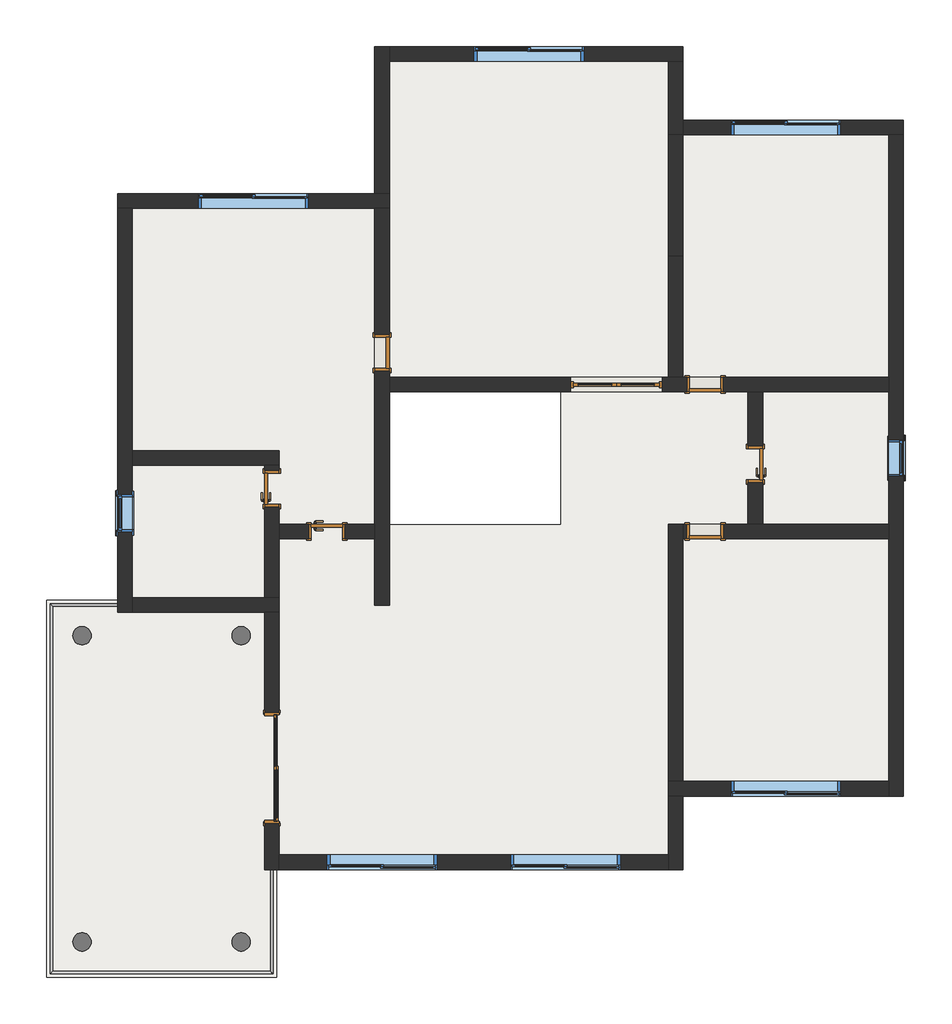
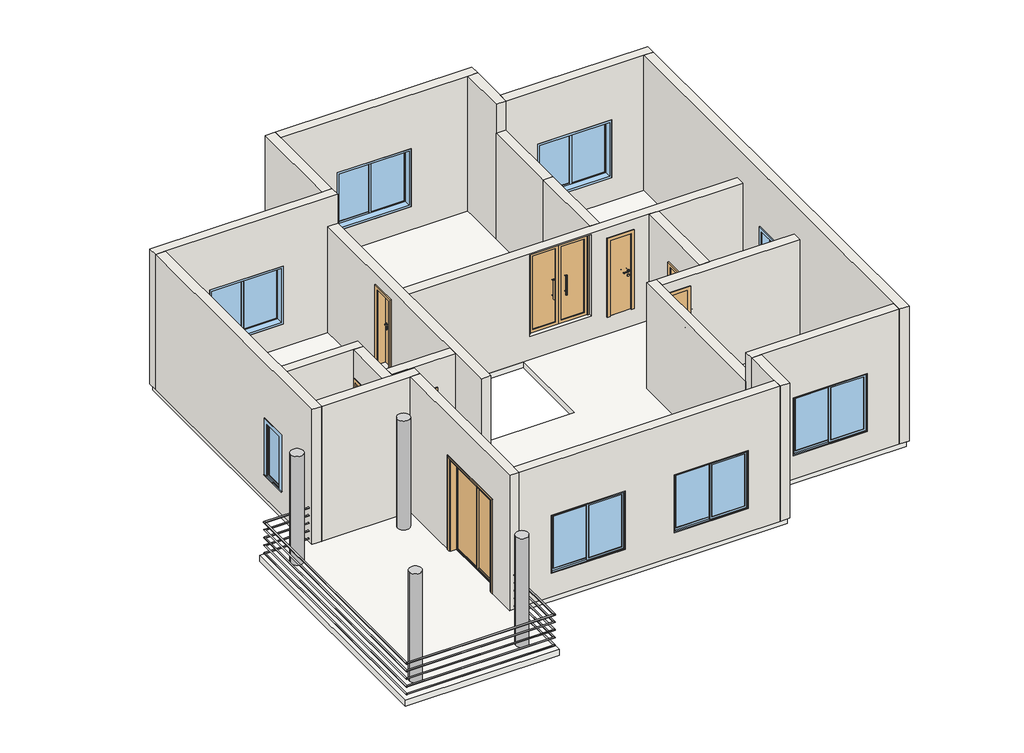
# One storey: 22 walls, 8 doors, 8 windows, 1 proxy, 1 railing, 1 slab.
"""IFC4 building model written with IfcOpenShell, lengths in millimetres."""

from ifc_helpers import new_model, si_unit, frame, origin, place, context, project, spatial, polyline, circle_curve, ellipse_curve, outline, extrude, faceted_brep, transform, mapped, element, save
from ifc_brep_helpers import plane_surface, cylinder_surface, advanced_brep
from components import generic_models_c4da7987, m0620_20a38033, m0620_ca087de5, m1521_b0fe12bd, ym1824_3b6040d6, c0614_d0b92543, c1815_f293d40e

model = new_model("IFC4")

# Units and contexts
model_context = context("Model", 3, world=origin())
ifc_project = project(units=[si_unit("LENGTHUNIT", "METRE", prefix="MILLI")], contexts=[model_context])

# Site, building, storey
site = spatial("IfcSite", under=ifc_project)
building = spatial("IfcBuilding", under=site)
storey = spatial("IfcBuildingStorey", under=building, Name="标高 2", Elevation=3125.0)

# Proxy
placement = place(None, origin())
generic_models_shape = generic_models_c4da7987(model_context)
element("IfcBuildingElementProxy", 1, Name="常规模型 1 : 常规模型 1", ObjectType="常规模型 1 : 常规模型 1", at=placement, inside=storey, context=model_context, shape_type="MappedRepresentation", body=[
    mapped(generic_models_shape, transform((0.0, 0.0, 0.0), x_axis=(1.0, 0.0, 0.0), y_axis=(0.0, 1.0, 0.0), z_axis=(0.0, 0.0, 1.0))),
])

# Doors
m0620_shape = m0620_20a38033(model_context)
element("IfcDoor", 2, ObjectType="单嵌板木门 1 : M0620", at=placement, inside=storey, context=model_context, shape_type="MappedRepresentation", body=[
    mapped(m0620_shape, transform((-44457.1400177, -17387.7106127, 3575.0), x_axis=(0.0, -1.0, 0.0), y_axis=(1.0, 0.0, 0.0), z_axis=(0.0, 0.0, 1.0))),
])
element("IfcDoor", 3, ObjectType="单嵌板木门 1 : M0620", at=placement, inside=storey, context=model_context, shape_type="MappedRepresentation", body=[
    mapped(m0620_shape, transform((-39177.1400177, -17907.7106127, 3575.0), x_axis=(-1.0, 0.0, 0.0), y_axis=(0.0, -1.0, 0.0), z_axis=(0.0, 0.0, 1.0))),
])
element("IfcDoor", 4, ObjectType="单嵌板木门 1 : M0620", at=placement, inside=storey, context=model_context, shape_type="MappedRepresentation", body=[
    mapped(m0620_shape, transform((-39177.1400177, -20307.7106127, 3575.0), x_axis=(-1.0, 0.0, 0.0), y_axis=(0.0, -1.0, 0.0), z_axis=(0.0, 0.0, 1.0))),
])
element("IfcDoor", 5, ObjectType="单嵌板木门 1 : M0620", at=placement, inside=storey, context=model_context, shape_type="MappedRepresentation", body=[
    mapped(m0620_shape, transform((-45357.1400177, -20307.7106127, 3125.0), x_axis=(1.0, 0.0, 0.0), y_axis=(0.0, 1.0, 0.0), z_axis=(0.0, 0.0, 1.0))),
])
element("IfcDoor", 6, ObjectType="单嵌板木门 1 : M0620", at=placement, inside=storey, context=model_context, shape_type="MappedRepresentation", body=[
    mapped(m0620_shape, transform((-46257.1400177, -19607.7106127, 3125.0), x_axis=(0.0, 1.0, 0.0), y_axis=(-1.0, 0.0, 0.0), z_axis=(0.0, 0.0, 1.0))),
])
m0620_2_shape = m0620_ca087de5(model_context)
element("IfcDoor", 7, ObjectType="单嵌板木门 1 : M0620", at=placement, inside=storey, context=model_context, shape_type="MappedRepresentation", body=[
    mapped(m0620_2_shape, transform((-38357.1400177, -19207.7106127, 3125.0), x_axis=(0.0, 1.0, 0.0), y_axis=(-1.0, 0.0, 0.0), z_axis=(0.0, 0.0, 1.0))),
])
m1521_shape = m1521_b0fe12bd(model_context)
element("IfcDoor", 8, ObjectType="双面嵌板玻璃门 : M1521", at=placement, inside=storey, context=model_context, shape_type="MappedRepresentation", body=[
    mapped(m1521_shape, transform((-40627.1400177, -17907.7106127, 3725.0), x_axis=(1.0, 0.0, 0.0), y_axis=(0.0, 1.0, 0.0), z_axis=(0.0, 0.0, 1.0))),
])
ym1824_shape = ym1824_3b6040d6(model_context)
element("IfcDoor", 9, ObjectType="双扇推拉门5 : YM1824", at=placement, inside=storey, context=model_context, shape_type="MappedRepresentation", body=[
    mapped(ym1824_shape, transform((-46257.1400177, -24167.7106127, 3125.0), x_axis=(0.0, -1.0, 0.0), y_axis=(1.0, 0.0, 0.0), z_axis=(0.0, 0.0, 1.0))),
])

# Railing
element("IfcRailing", 10, ObjectType="900mm 圆管 2", at=placement, inside=storey, context=model_context, shape_type="AdvancedBrep", body=[
    advanced_brep(
    [(-46277.1400177, -25827.7106127, 4005.0), (-46237.1400177, -25827.7106127, 4005.0), (-46277.1400177, -27487.7106127, 4005.0), (-46237.1400177, -27527.7106127, 4005.0), (-49837.1400177, -27487.7106127, 4005.0), (-49877.1400177, -27527.7106127, 4005.0), (-49837.1400177, -21527.7106127, 4005.0), (-49877.1400177, -21487.7106127, 4005.0), (-48777.1400177, -21527.7106127, 4005.0), (-48777.1400177, -21487.7106127, 4005.0)],
    [
        (0, 1, circle_curve(frame((-46257.1400177, -25827.7106127, 4005.0), z_axis=(0.0, 1.0, 0.0), x_axis=(1.0, 0.0, 0.0)), 20.0)),
        (1, 0, circle_curve(frame((-46257.1400177, -25827.7106127, 4005.0), z_axis=(0.0, 1.0, 0.0), x_axis=(1.0, 0.0, 0.0)), 20.0)),
        (0, 2),
        (2, 3, ellipse_curve(frame((-46257.1400177, -27507.7106127, 4005.0), z_axis=(0.7071067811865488, 0.7071067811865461, 0.0), x_axis=(-0.707106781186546, 0.7071067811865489, 0.0)), 28.2842712, 20.0)),
        (3, 1),
        (3, 2, ellipse_curve(frame((-46257.1400177, -27507.7106127, 4005.0), z_axis=(0.7071067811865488, 0.7071067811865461, 0.0), x_axis=(-0.707106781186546, 0.7071067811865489, 0.0)), 28.2842712, 20.0)),
        (2, 4),
        (4, 5, ellipse_curve(frame((-49857.1400177, -27507.7106127, 4005.0), z_axis=(0.7071067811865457, -0.7071067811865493, 0.0), x_axis=(0.7071067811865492, 0.7071067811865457, 0.0)), 28.2842712, 20.0)),
        (5, 3),
        (5, 4, ellipse_curve(frame((-49857.1400177, -27507.7106127, 4005.0), z_axis=(0.7071067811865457, -0.7071067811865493, 0.0), x_axis=(0.7071067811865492, 0.7071067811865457, 0.0)), 28.2842712, 20.0)),
        (4, 6),
        (6, 7, ellipse_curve(frame((-49857.1400177, -21507.7106127, 4005.0), z_axis=(-0.7071067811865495, -0.7071067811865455, 0.0), x_axis=(0.7071067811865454, -0.7071067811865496, 0.0)), 28.2842712, 20.0)),
        (7, 5),
        (7, 6, ellipse_curve(frame((-49857.1400177, -21507.7106127, 4005.0), z_axis=(-0.7071067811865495, -0.7071067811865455, 0.0), x_axis=(0.7071067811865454, -0.7071067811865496, 0.0)), 28.2842712, 20.0)),
        (8, 9, circle_curve(frame((-48777.1400177, -21507.7106127, 4005.0), z_axis=(1.0, 0.0, 0.0), x_axis=(0.0, 1.0, 0.0)), 20.0)),
        (9, 8, circle_curve(frame((-48777.1400177, -21507.7106127, 4005.0), z_axis=(1.0, 0.0, 0.0), x_axis=(0.0, 1.0, 0.0)), 20.0)),
        (6, 8),
        (9, 7),
    ],
    [
        plane_surface(frame((-46257.1400177, -25827.7106127, 4025.0), z_axis=(0.0, 1.0, 0.0), x_axis=(0.0, 0.0, -1.0))),
        cylinder_surface(frame((-46257.1400177, -25827.7106127, 4005.0), z_axis=(0.0, 1.0, 0.0), x_axis=(1.0, 0.0, 0.0)), 20.0),
        cylinder_surface(frame((-46257.1400177, -27507.7106127, 4005.0), z_axis=(1.0, 0.0, 0.0), x_axis=(0.0, -1.0, 0.0)), 20.0),
        cylinder_surface(frame((-49857.1400177, -27507.7106127, 4005.0), z_axis=(0.0, -1.0, 0.0), x_axis=(-1.0, 0.0, 0.0)), 20.0),
        plane_surface(frame((-48777.1400177, -21507.7106127, 4025.0), z_axis=(1.0, 0.0, 0.0), x_axis=(0.0, 1.0, 0.0))),
        cylinder_surface(frame((-49857.1400177, -21507.7106127, 4005.0), z_axis=(-1.0, 0.0, 0.0), x_axis=(0.0, 1.0, 0.0)), 20.0),
    ],
    [
        (0, [[1, 2]]),
        (1, [[-1, 3, 4, 5]]),
        (1, [[-2, -5, 6, -3]]),
        (2, [[-4, 7, 8, 9]]),
        (2, [[-6, -9, 10, -7]]),
        (3, [[-8, 11, 12, 13]]),
        (3, [[-10, -13, 14, -11]]),
        (4, [[15, 16]]),
        (5, [[-12, 17, -16, 18]]),
        (5, [[-14, -18, -15, -17]]),
    ],
),
    advanced_brep(
    [(-46242.1400177, -25827.7106127, 3810.0), (-46272.1400177, -25827.7106127, 3810.0), (-46242.1400177, -27522.7106127, 3810.0), (-46272.1400177, -27492.7106127, 3810.0), (-49872.1400177, -27522.7106127, 3810.0), (-49842.1400177, -27492.7106127, 3810.0), (-49872.1400177, -21492.7106127, 3810.0), (-49842.1400177, -21522.7106127, 3810.0), (-48777.1400177, -21492.7106127, 3810.0), (-48777.1400177, -21522.7106127, 3810.0)],
    [
        (0, 1, circle_curve(frame((-46257.1400177, -25827.7106127, 3810.0), z_axis=(0.0, 1.0, 0.0), x_axis=(-1.0, 0.0, 0.0)), 15.0)),
        (1, 0, circle_curve(frame((-46257.1400177, -25827.7106127, 3810.0), z_axis=(0.0, 1.0, 0.0), x_axis=(-1.0, 0.0, 0.0)), 15.0)),
        (0, 2),
        (2, 3, ellipse_curve(frame((-46257.1400177, -27507.7106127, 3810.0), z_axis=(0.7071067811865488, 0.7071067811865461, 0.0), x_axis=(-0.707106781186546, 0.7071067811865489, 0.0)), 21.2132034, 15.0)),
        (3, 1),
        (3, 2, ellipse_curve(frame((-46257.1400177, -27507.7106127, 3810.0), z_axis=(0.7071067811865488, 0.7071067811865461, 0.0), x_axis=(-0.707106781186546, 0.7071067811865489, 0.0)), 21.2132034, 15.0)),
        (2, 4),
        (4, 5, ellipse_curve(frame((-49857.1400177, -27507.7106127, 3810.0), z_axis=(0.7071067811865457, -0.7071067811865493, 0.0), x_axis=(0.7071067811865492, 0.7071067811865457, 0.0)), 21.2132034, 15.0)),
        (5, 3),
        (5, 4, ellipse_curve(frame((-49857.1400177, -27507.7106127, 3810.0), z_axis=(0.7071067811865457, -0.7071067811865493, 0.0), x_axis=(0.7071067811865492, 0.7071067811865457, 0.0)), 21.2132034, 15.0)),
        (4, 6),
        (6, 7, ellipse_curve(frame((-49857.1400177, -21507.7106127, 3810.0), z_axis=(-0.7071067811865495, -0.7071067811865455, 0.0), x_axis=(0.7071067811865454, -0.7071067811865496, 0.0)), 21.2132034, 15.0)),
        (7, 5),
        (7, 6, ellipse_curve(frame((-49857.1400177, -21507.7106127, 3810.0), z_axis=(-0.7071067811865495, -0.7071067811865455, 0.0), x_axis=(0.7071067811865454, -0.7071067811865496, 0.0)), 21.2132034, 15.0)),
        (8, 9, circle_curve(frame((-48777.1400177, -21507.7106127, 3810.0), z_axis=(1.0, 0.0, 0.0), x_axis=(0.0, -1.0, 0.0)), 15.0)),
        (9, 8, circle_curve(frame((-48777.1400177, -21507.7106127, 3810.0), z_axis=(1.0, 0.0, 0.0), x_axis=(0.0, -1.0, 0.0)), 15.0)),
        (6, 8),
        (9, 7),
    ],
    [
        plane_surface(frame((-46257.1400177, -25827.7106127, 3825.0), z_axis=(0.0, 1.0, 0.0), x_axis=(0.0, 0.0, -1.0))),
        cylinder_surface(frame((-46257.1400177, -25827.7106127, 3810.0), z_axis=(0.0, 1.0, 0.0), x_axis=(-1.0, 0.0, 0.0)), 15.0),
        cylinder_surface(frame((-46257.1400177, -27507.7106127, 3810.0), z_axis=(1.0, 0.0, 0.0), x_axis=(0.0, 1.0, 0.0)), 15.0),
        cylinder_surface(frame((-49857.1400177, -27507.7106127, 3810.0), z_axis=(0.0, -1.0, 0.0), x_axis=(1.0, 0.0, 0.0)), 15.0),
        plane_surface(frame((-48777.1400177, -21507.7106127, 3825.0), z_axis=(1.0, 0.0, 0.0), x_axis=(0.0, 1.0, 0.0))),
        cylinder_surface(frame((-49857.1400177, -21507.7106127, 3810.0), z_axis=(-1.0, 0.0, 0.0), x_axis=(0.0, -1.0, 0.0)), 15.0),
    ],
    [
        (0, [[1, 2]]),
        (1, [[-1, 3, 4, 5]]),
        (1, [[-2, -5, 6, -3]]),
        (2, [[-4, 7, 8, 9]]),
        (2, [[-6, -9, 10, -7]]),
        (3, [[-8, 11, 12, 13]]),
        (3, [[-10, -13, 14, -11]]),
        (4, [[15, 16]]),
        (5, [[-12, 17, -16, 18]]),
        (5, [[-14, -18, -15, -17]]),
    ],
),
    advanced_brep(
    [(-46242.1400177, -25827.7106127, 3610.0), (-46272.1400177, -25827.7106127, 3610.0), (-46242.1400177, -27522.7106127, 3610.0), (-46272.1400177, -27492.7106127, 3610.0), (-49872.1400177, -27522.7106127, 3610.0), (-49842.1400177, -27492.7106127, 3610.0), (-49872.1400177, -21492.7106127, 3610.0), (-49842.1400177, -21522.7106127, 3610.0), (-48777.1400177, -21492.7106127, 3610.0), (-48777.1400177, -21522.7106127, 3610.0)],
    [
        (0, 1, circle_curve(frame((-46257.1400177, -25827.7106127, 3610.0), z_axis=(0.0, 1.0, 0.0), x_axis=(-1.0, 0.0, 0.0)), 15.0)),
        (1, 0, circle_curve(frame((-46257.1400177, -25827.7106127, 3610.0), z_axis=(0.0, 1.0, 0.0), x_axis=(-1.0, 0.0, 0.0)), 15.0)),
        (0, 2),
        (2, 3, ellipse_curve(frame((-46257.1400177, -27507.7106127, 3610.0), z_axis=(0.7071067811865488, 0.7071067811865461, 0.0), x_axis=(-0.707106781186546, 0.7071067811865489, 0.0)), 21.2132034, 15.0)),
        (3, 1),
        (3, 2, ellipse_curve(frame((-46257.1400177, -27507.7106127, 3610.0), z_axis=(0.7071067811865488, 0.7071067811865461, 0.0), x_axis=(-0.707106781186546, 0.7071067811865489, 0.0)), 21.2132034, 15.0)),
        (2, 4),
        (4, 5, ellipse_curve(frame((-49857.1400177, -27507.7106127, 3610.0), z_axis=(0.7071067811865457, -0.7071067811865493, 0.0), x_axis=(0.7071067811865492, 0.7071067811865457, 0.0)), 21.2132034, 15.0)),
        (5, 3),
        (5, 4, ellipse_curve(frame((-49857.1400177, -27507.7106127, 3610.0), z_axis=(0.7071067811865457, -0.7071067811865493, 0.0), x_axis=(0.7071067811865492, 0.7071067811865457, 0.0)), 21.2132034, 15.0)),
        (4, 6),
        (6, 7, ellipse_curve(frame((-49857.1400177, -21507.7106127, 3610.0), z_axis=(-0.7071067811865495, -0.7071067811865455, 0.0), x_axis=(0.7071067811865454, -0.7071067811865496, 0.0)), 21.2132034, 15.0)),
        (7, 5),
        (7, 6, ellipse_curve(frame((-49857.1400177, -21507.7106127, 3610.0), z_axis=(-0.7071067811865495, -0.7071067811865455, 0.0), x_axis=(0.7071067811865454, -0.7071067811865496, 0.0)), 21.2132034, 15.0)),
        (8, 9, circle_curve(frame((-48777.1400177, -21507.7106127, 3610.0), z_axis=(1.0, 0.0, 0.0), x_axis=(0.0, -1.0, 0.0)), 15.0)),
        (9, 8, circle_curve(frame((-48777.1400177, -21507.7106127, 3610.0), z_axis=(1.0, 0.0, 0.0), x_axis=(0.0, -1.0, 0.0)), 15.0)),
        (6, 8),
        (9, 7),
    ],
    [
        plane_surface(frame((-46257.1400177, -25827.7106127, 3625.0), z_axis=(0.0, 1.0, 0.0), x_axis=(0.0, 0.0, -1.0))),
        cylinder_surface(frame((-46257.1400177, -25827.7106127, 3610.0), z_axis=(0.0, 1.0, 0.0), x_axis=(-1.0, 0.0, 0.0)), 15.0),
        cylinder_surface(frame((-46257.1400177, -27507.7106127, 3610.0), z_axis=(1.0, 0.0, 0.0), x_axis=(0.0, 1.0, 0.0)), 15.0),
        cylinder_surface(frame((-49857.1400177, -27507.7106127, 3610.0), z_axis=(0.0, -1.0, 0.0), x_axis=(1.0, 0.0, 0.0)), 15.0),
        plane_surface(frame((-48777.1400177, -21507.7106127, 3625.0), z_axis=(1.0, 0.0, 0.0), x_axis=(0.0, 1.0, 0.0))),
        cylinder_surface(frame((-49857.1400177, -21507.7106127, 3610.0), z_axis=(-1.0, 0.0, 0.0), x_axis=(0.0, -1.0, 0.0)), 15.0),
    ],
    [
        (0, [[1, 2]]),
        (1, [[-1, 3, 4, 5]]),
        (1, [[-2, -5, 6, -3]]),
        (2, [[-4, 7, 8, 9]]),
        (2, [[-6, -9, 10, -7]]),
        (3, [[-8, 11, 12, 13]]),
        (3, [[-10, -13, 14, -11]]),
        (4, [[15, 16]]),
        (5, [[-12, 17, -16, 18]]),
        (5, [[-14, -18, -15, -17]]),
    ],
),
    advanced_brep(
    [(-46242.1400177, -25827.7106127, 3410.0), (-46272.1400177, -25827.7106127, 3410.0), (-46242.1400177, -27522.7106127, 3410.0), (-46272.1400177, -27492.7106127, 3410.0), (-49872.1400177, -27522.7106127, 3410.0), (-49842.1400177, -27492.7106127, 3410.0), (-49872.1400177, -21492.7106127, 3410.0), (-49842.1400177, -21522.7106127, 3410.0), (-48777.1400177, -21492.7106127, 3410.0), (-48777.1400177, -21522.7106127, 3410.0)],
    [
        (0, 1, circle_curve(frame((-46257.1400177, -25827.7106127, 3410.0), z_axis=(0.0, 1.0, 0.0), x_axis=(-1.0, 0.0, 0.0)), 15.0)),
        (1, 0, circle_curve(frame((-46257.1400177, -25827.7106127, 3410.0), z_axis=(0.0, 1.0, 0.0), x_axis=(-1.0, 0.0, 0.0)), 15.0)),
        (0, 2),
        (2, 3, ellipse_curve(frame((-46257.1400177, -27507.7106127, 3410.0), z_axis=(0.7071067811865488, 0.7071067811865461, 0.0), x_axis=(-0.707106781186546, 0.7071067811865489, 0.0)), 21.2132034, 15.0)),
        (3, 1),
        (3, 2, ellipse_curve(frame((-46257.1400177, -27507.7106127, 3410.0), z_axis=(0.7071067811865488, 0.7071067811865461, 0.0), x_axis=(-0.707106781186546, 0.7071067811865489, 0.0)), 21.2132034, 15.0)),
        (2, 4),
        (4, 5, ellipse_curve(frame((-49857.1400177, -27507.7106127, 3410.0), z_axis=(0.7071067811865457, -0.7071067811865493, 0.0), x_axis=(0.7071067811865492, 0.7071067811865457, 0.0)), 21.2132034, 15.0)),
        (5, 3),
        (5, 4, ellipse_curve(frame((-49857.1400177, -27507.7106127, 3410.0), z_axis=(0.7071067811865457, -0.7071067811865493, 0.0), x_axis=(0.7071067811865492, 0.7071067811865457, 0.0)), 21.2132034, 15.0)),
        (4, 6),
        (6, 7, ellipse_curve(frame((-49857.1400177, -21507.7106127, 3410.0), z_axis=(-0.7071067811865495, -0.7071067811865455, 0.0), x_axis=(0.7071067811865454, -0.7071067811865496, 0.0)), 21.2132034, 15.0)),
        (7, 5),
        (7, 6, ellipse_curve(frame((-49857.1400177, -21507.7106127, 3410.0), z_axis=(-0.7071067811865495, -0.7071067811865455, 0.0), x_axis=(0.7071067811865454, -0.7071067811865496, 0.0)), 21.2132034, 15.0)),
        (8, 9, circle_curve(frame((-48777.1400177, -21507.7106127, 3410.0), z_axis=(1.0, 0.0, 0.0), x_axis=(0.0, -1.0, 0.0)), 15.0)),
        (9, 8, circle_curve(frame((-48777.1400177, -21507.7106127, 3410.0), z_axis=(1.0, 0.0, 0.0), x_axis=(0.0, -1.0, 0.0)), 15.0)),
        (6, 8),
        (9, 7),
    ],
    [
        plane_surface(frame((-46257.1400177, -25827.7106127, 3425.0), z_axis=(0.0, 1.0, 0.0), x_axis=(0.0, 0.0, -1.0))),
        cylinder_surface(frame((-46257.1400177, -25827.7106127, 3410.0), z_axis=(0.0, 1.0, 0.0), x_axis=(-1.0, 0.0, 0.0)), 15.0),
        cylinder_surface(frame((-46257.1400177, -27507.7106127, 3410.0), z_axis=(1.0, 0.0, 0.0), x_axis=(0.0, 1.0, 0.0)), 15.0),
        cylinder_surface(frame((-49857.1400177, -27507.7106127, 3410.0), z_axis=(0.0, -1.0, 0.0), x_axis=(1.0, 0.0, 0.0)), 15.0),
        plane_surface(frame((-48777.1400177, -21507.7106127, 3425.0), z_axis=(1.0, 0.0, 0.0), x_axis=(0.0, 1.0, 0.0))),
        cylinder_surface(frame((-49857.1400177, -21507.7106127, 3410.0), z_axis=(-1.0, 0.0, 0.0), x_axis=(0.0, -1.0, 0.0)), 15.0),
    ],
    [
        (0, [[1, 2]]),
        (1, [[-1, 3, 4, 5]]),
        (1, [[-2, -5, 6, -3]]),
        (2, [[-4, 7, 8, 9]]),
        (2, [[-6, -9, 10, -7]]),
        (3, [[-8, 11, 12, 13]]),
        (3, [[-10, -13, 14, -11]]),
        (4, [[15, 16]]),
        (5, [[-12, 17, -16, 18]]),
        (5, [[-14, -18, -15, -17]]),
    ],
),
    advanced_brep(
    [(-46242.1400177, -25827.7106127, 3210.0), (-46272.1400177, -25827.7106127, 3210.0), (-46242.1400177, -27522.7106127, 3210.0), (-46272.1400177, -27492.7106127, 3210.0), (-49872.1400177, -27522.7106127, 3210.0), (-49842.1400177, -27492.7106127, 3210.0), (-49872.1400177, -21492.7106127, 3210.0), (-49842.1400177, -21522.7106127, 3210.0), (-48777.1400177, -21492.7106127, 3210.0), (-48777.1400177, -21522.7106127, 3210.0)],
    [
        (0, 1, circle_curve(frame((-46257.1400177, -25827.7106127, 3210.0), z_axis=(0.0, 1.0, 0.0), x_axis=(-1.0, 0.0, 0.0)), 15.0)),
        (1, 0, circle_curve(frame((-46257.1400177, -25827.7106127, 3210.0), z_axis=(0.0, 1.0, 0.0), x_axis=(-1.0, 0.0, 0.0)), 15.0)),
        (0, 2),
        (2, 3, ellipse_curve(frame((-46257.1400177, -27507.7106127, 3210.0), z_axis=(0.7071067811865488, 0.7071067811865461, 0.0), x_axis=(-0.707106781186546, 0.7071067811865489, 0.0)), 21.2132034, 15.0)),
        (3, 1),
        (3, 2, ellipse_curve(frame((-46257.1400177, -27507.7106127, 3210.0), z_axis=(0.7071067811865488, 0.7071067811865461, 0.0), x_axis=(-0.707106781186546, 0.7071067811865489, 0.0)), 21.2132034, 15.0)),
        (2, 4),
        (4, 5, ellipse_curve(frame((-49857.1400177, -27507.7106127, 3210.0), z_axis=(0.7071067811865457, -0.7071067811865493, 0.0), x_axis=(0.7071067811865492, 0.7071067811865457, 0.0)), 21.2132034, 15.0)),
        (5, 3),
        (5, 4, ellipse_curve(frame((-49857.1400177, -27507.7106127, 3210.0), z_axis=(0.7071067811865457, -0.7071067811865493, 0.0), x_axis=(0.7071067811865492, 0.7071067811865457, 0.0)), 21.2132034, 15.0)),
        (4, 6),
        (6, 7, ellipse_curve(frame((-49857.1400177, -21507.7106127, 3210.0), z_axis=(-0.7071067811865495, -0.7071067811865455, 0.0), x_axis=(0.7071067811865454, -0.7071067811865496, 0.0)), 21.2132034, 15.0)),
        (7, 5),
        (7, 6, ellipse_curve(frame((-49857.1400177, -21507.7106127, 3210.0), z_axis=(-0.7071067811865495, -0.7071067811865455, 0.0), x_axis=(0.7071067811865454, -0.7071067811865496, 0.0)), 21.2132034, 15.0)),
        (8, 9, circle_curve(frame((-48777.1400177, -21507.7106127, 3210.0), z_axis=(1.0, 0.0, 0.0), x_axis=(0.0, -1.0, 0.0)), 15.0)),
        (9, 8, circle_curve(frame((-48777.1400177, -21507.7106127, 3210.0), z_axis=(1.0, 0.0, 0.0), x_axis=(0.0, -1.0, 0.0)), 15.0)),
        (6, 8),
        (9, 7),
    ],
    [
        plane_surface(frame((-46257.1400177, -25827.7106127, 3225.0), z_axis=(0.0, 1.0, 0.0), x_axis=(0.0, 0.0, -1.0))),
        cylinder_surface(frame((-46257.1400177, -25827.7106127, 3210.0), z_axis=(0.0, 1.0, 0.0), x_axis=(-1.0, 0.0, 0.0)), 15.0),
        cylinder_surface(frame((-46257.1400177, -27507.7106127, 3210.0), z_axis=(1.0, 0.0, 0.0), x_axis=(0.0, 1.0, 0.0)), 15.0),
        cylinder_surface(frame((-49857.1400177, -27507.7106127, 3210.0), z_axis=(0.0, -1.0, 0.0), x_axis=(1.0, 0.0, 0.0)), 15.0),
        plane_surface(frame((-48777.1400177, -21507.7106127, 3225.0), z_axis=(1.0, 0.0, 0.0), x_axis=(0.0, 1.0, 0.0))),
        cylinder_surface(frame((-49857.1400177, -21507.7106127, 3210.0), z_axis=(-1.0, 0.0, 0.0), x_axis=(0.0, -1.0, 0.0)), 15.0),
    ],
    [
        (0, [[1, 2]]),
        (1, [[-1, 3, 4, 5]]),
        (1, [[-2, -5, 6, -3]]),
        (2, [[-4, 7, 8, 9]]),
        (2, [[-6, -9, 10, -7]]),
        (3, [[-8, 11, 12, 13]]),
        (3, [[-10, -13, 14, -11]]),
        (4, [[15, 16]]),
        (5, [[-12, 17, -16, 18]]),
        (5, [[-14, -18, -15, -17]]),
    ],
),
])

# Slab
element("IfcSlab", 11, ObjectType="楼板-150mm-标高2", at=placement, inside=storey, context=model_context, shape_type="SweptSolid", body=[
    extrude(outline(polyline([(-48737.1400177, -14827.7106127), (-44537.1400177, -14827.7106127), (-44537.1400177, -12427.7106127), (-39577.1400177, -12427.7106127), (-39577.1400177, -13627.7106127), (-35977.1400177, -13627.7106127), (-35977.1400177, -24587.7106127), (-39577.1400177, -24587.7106127), (-39577.1400177, -25787.7106127), (-46177.1400177, -25787.7106127), (-46177.1400177, -27587.7106127), (-49937.1400177, -27587.7106127), (-49937.1400177, -21427.7106127), (-48737.1400177, -21427.7106127), (-48737.1400177, -14827.7106127)]), holes=[polyline([(-41537.1400177, -18027.7106127), (-44337.1400177, -18027.7106127), (-44337.1400177, -20187.7106127), (-41537.1400177, -20187.7106127), (-41537.1400177, -18027.7106127)])]), frame((0.0, 0.0, 2975.0), z_axis=(0.0, 0.0, 1.0), x_axis=(1.0, 0.0, 0.0)), (0.0, 0.0, 1.0), 150.0),
])

# Walls
element("IfcWall", 12, ObjectType="外-240mm", at=placement, inside=storey, context=model_context, shape_type="Brep", body=[
    faceted_brep([(-48777.1400177, -15027.7106127, 3125.0), (-48537.1400177, -15027.7106127, 3125.0), (-44577.1400177, -15027.7106127, 3125.0), (-44337.1400177, -15027.7106127, 3125.0), (-44337.1400177, -15027.7106127, 6010.0), (-44337.1400177, -15027.7106127, 6610.0), (-48537.1400177, -15027.7106127, 6610.0), (-48777.1400177, -15027.7106127, 6610.0), (-45657.1400177, -15027.7106127, 5225.0), (-45657.1400177, -15027.7106127, 3725.0), (-47457.1400177, -15027.7106127, 3725.0), (-47457.1400177, -15027.7106127, 5225.0), (-48777.1400177, -14787.7106127, 3125.0), (-48777.1400177, -14787.7106127, 6610.0), (-44577.1400177, -14787.7106127, 6610.0), (-44337.1400177, -14787.7106127, 6610.0), (-44337.1400177, -14787.7106127, 3125.0), (-44577.1400177, -14787.7106127, 3125.0), (-45657.1400177, -14787.7106127, 5225.0), (-47457.1400177, -14787.7106127, 5225.0), (-47457.1400177, -14787.7106127, 3725.0), (-45657.1400177, -14787.7106127, 3725.0)], [[[0, 1, 2, 3, 4, 5, 6, 7], [8, 9, 10, 11]], [[12, 13, 14, 15, 16, 17], [18, 19, 20, 21]], [[3, 2, 1, 0, 12, 17, 16]], [[7, 6, 5, 15, 14, 13]], [[0, 7, 13, 12]], [[3, 16, 15, 5, 4]], [[9, 8, 18, 21]], [[10, 9, 21, 20]], [[11, 10, 20, 19]], [[8, 11, 19, 18]]]),
])
element("IfcWall", 13, ObjectType="外-240mm", at=placement, inside=storey, context=model_context, shape_type="Brep", body=[
    faceted_brep([(-44337.1400177, -14787.7106127, 6610.0), (-44337.1400177, -14787.7106127, 3125.0), (-44337.1400177, -12627.7106127, 3125.0), (-44337.1400177, -12387.7106127, 3125.0), (-44337.1400177, -12387.7106127, 6610.0), (-44337.1400177, -12627.7106127, 6610.0), (-44577.1400177, -14787.7106127, 3125.0), (-44577.1400177, -14787.7106127, 6610.0), (-44577.1400177, -12387.7106127, 6610.0), (-44577.1400177, -12387.7106127, 3125.0)], [[[0, 1, 2, 3, 4, 5]], [[6, 7, 8, 9]], [[3, 2, 1, 6, 9]], [[0, 5, 4, 8, 7]], [[4, 3, 9, 8]], [[0, 7, 6, 1]]]),
])
element("IfcWall", 14, ObjectType="外-240mm", at=placement, inside=storey, context=model_context, shape_type="Brep", body=[
    faceted_brep([(-44337.1400177, -12627.7106127, 3125.0), (-39777.1400177, -12627.7106127, 3125.0), (-39537.1400177, -12627.7106127, 3125.0), (-39537.1400177, -12627.7106127, 6610.0), (-39777.1400177, -12627.7106127, 6610.0), (-44337.1400177, -12627.7106127, 6610.0), (-41157.1400177, -12627.7106127, 5225.0), (-41157.1400177, -12627.7106127, 3725.0), (-42957.1400177, -12627.7106127, 3725.0), (-42957.1400177, -12627.7106127, 5225.0), (-44337.1400177, -12387.7106127, 3125.0), (-44337.1400177, -12387.7106127, 6610.0), (-39537.1400177, -12387.7106127, 6610.0), (-39537.1400177, -12387.7106127, 3125.0), (-41157.1400177, -12387.7106127, 5225.0), (-42957.1400177, -12387.7106127, 5225.0), (-42957.1400177, -12387.7106127, 3725.0), (-41157.1400177, -12387.7106127, 3725.0)], [[[0, 1, 2, 3, 4, 5], [6, 7, 8, 9]], [[10, 11, 12, 13], [14, 15, 16, 17]], [[2, 1, 0, 10, 13]], [[5, 4, 3, 12, 11]], [[0, 5, 11, 10]], [[3, 2, 13, 12]], [[7, 6, 14, 17]], [[8, 7, 17, 16]], [[9, 8, 16, 15]], [[6, 9, 15, 14]]]),
])
element("IfcWall", 15, ObjectType="外-240mm", at=placement, inside=storey, context=model_context, shape_type="Brep", body=[
    faceted_brep([(-39777.1400177, -12627.7106127, 3125.0), (-39777.1400177, -13827.7106127, 3125.0), (-39777.1400177, -13827.7106127, 5860.0), (-39777.1400177, -13827.7106127, 6610.0), (-39777.1400177, -12627.7106127, 6610.0), (-39537.1400177, -12627.7106127, 3125.0), (-39537.1400177, -12627.7106127, 6610.0), (-39537.1400177, -13587.7106127, 6610.0), (-39537.1400177, -13827.7106127, 6610.0), (-39537.1400177, -13827.7106127, 3125.0), (-39537.1400177, -13587.7106127, 3125.0)], [[[0, 1, 2, 3, 4]], [[5, 6, 7, 8, 9, 10]], [[1, 0, 5, 10, 9]], [[4, 3, 8, 7, 6]], [[0, 4, 6, 5]], [[1, 9, 8, 3, 2]]]),
])
element("IfcWall", 16, ObjectType="外-240mm", at=placement, inside=storey, context=model_context, shape_type="Brep", body=[
    faceted_brep([(-39537.1400177, -13827.7106127, 6610.0), (-39537.1400177, -13827.7106127, 3125.0), (-36177.1400177, -13827.7106127, 3125.0), (-35937.1400177, -13827.7106127, 3125.0), (-35937.1400177, -13827.7106127, 6610.0), (-36177.1400177, -13827.7106127, 6610.0), (-36957.1400177, -13827.7106127, 5225.0), (-36957.1400177, -13827.7106127, 3725.0), (-38757.1400177, -13827.7106127, 3725.0), (-38757.1400177, -13827.7106127, 5225.0), (-39537.1400177, -13587.7106127, 3125.0), (-39537.1400177, -13587.7106127, 6610.0), (-35937.1400177, -13587.7106127, 6610.0), (-35937.1400177, -13587.7106127, 3125.0), (-36957.1400177, -13587.7106127, 5225.0), (-38757.1400177, -13587.7106127, 5225.0), (-38757.1400177, -13587.7106127, 3725.0), (-36957.1400177, -13587.7106127, 3725.0)], [[[0, 1, 2, 3, 4, 5], [6, 7, 8, 9]], [[10, 11, 12, 13], [14, 15, 16, 17]], [[3, 2, 1, 10, 13]], [[0, 5, 4, 12, 11]], [[4, 3, 13, 12]], [[0, 11, 10, 1]], [[7, 6, 14, 17]], [[8, 7, 17, 16]], [[9, 8, 16, 15]], [[6, 9, 15, 14]]]),
])
element("IfcWall", 17, ObjectType="外-240mm", at=placement, inside=storey, context=model_context, shape_type="Brep", body=[
    faceted_brep([(-36177.1400177, -13827.7106127, 3125.0), (-36177.1400177, -17787.7106127, 3125.0), (-36177.1400177, -18027.7106127, 3125.0), (-36177.1400177, -20187.7106127, 3125.0), (-36177.1400177, -20427.7106127, 3125.0), (-36177.1400177, -24387.7106127, 3125.0), (-36177.1400177, -24627.7106127, 3125.0), (-36177.1400177, -24627.7106127, 6610.0), (-36177.1400177, -24387.7106127, 6610.0), (-36177.1400177, -13827.7106127, 6610.0), (-36177.1400177, -19407.7106127, 5125.0), (-36177.1400177, -19407.7106127, 3725.0), (-36177.1400177, -18807.7106127, 3725.0), (-36177.1400177, -18807.7106127, 5125.0), (-35937.1400177, -13827.7106127, 3125.0), (-35937.1400177, -13827.7106127, 6610.0), (-35937.1400177, -24627.7106127, 6610.0), (-35937.1400177, -24627.7106127, 3125.0), (-35937.1400177, -19407.7106127, 5125.0), (-35937.1400177, -18807.7106127, 5125.0), (-35937.1400177, -18807.7106127, 3725.0), (-35937.1400177, -19407.7106127, 3725.0)], [[[0, 1, 2, 3, 4, 5, 6, 7, 8, 9], [10, 11, 12, 13]], [[14, 15, 16, 17], [18, 19, 20, 21]], [[6, 5, 4, 3, 2, 1, 0, 14, 17]], [[9, 8, 7, 16, 15]], [[0, 9, 15, 14]], [[7, 6, 17, 16]], [[11, 10, 18, 21]], [[12, 11, 21, 20]], [[13, 12, 20, 19]], [[10, 13, 19, 18]]]),
])
element("IfcWall", 18, ObjectType="外-240mm", at=placement, inside=storey, context=model_context, shape_type="Brep", body=[
    faceted_brep([(-36177.1400177, -24387.7106127, 3125.0), (-39537.1400177, -24387.7106127, 3125.0), (-39777.1400177, -24387.7106127, 3125.0), (-39777.1400177, -24387.7106127, 6010.0), (-39777.1400177, -24387.7106127, 6610.0), (-36177.1400177, -24387.7106127, 6610.0), (-38757.1400177, -24387.7106127, 5225.0), (-38757.1400177, -24387.7106127, 3725.0), (-36957.1400177, -24387.7106127, 3725.0), (-36957.1400177, -24387.7106127, 5225.0), (-36177.1400177, -24627.7106127, 3125.0), (-36177.1400177, -24627.7106127, 6610.0), (-39537.1400177, -24627.7106127, 6610.0), (-39777.1400177, -24627.7106127, 6610.0), (-39777.1400177, -24627.7106127, 3125.0), (-39537.1400177, -24627.7106127, 3125.0), (-38757.1400177, -24627.7106127, 5225.0), (-36957.1400177, -24627.7106127, 5225.0), (-36957.1400177, -24627.7106127, 3725.0), (-38757.1400177, -24627.7106127, 3725.0)], [[[0, 1, 2, 3, 4, 5], [6, 7, 8, 9]], [[10, 11, 12, 13, 14, 15], [16, 17, 18, 19]], [[2, 1, 0, 10, 15, 14]], [[5, 4, 13, 12, 11]], [[0, 5, 11, 10]], [[2, 14, 13, 4, 3]], [[7, 6, 16, 19]], [[8, 7, 19, 18]], [[9, 8, 18, 17]], [[6, 9, 17, 16]]]),
])
element("IfcWall", 19, ObjectType="外-240mm", at=placement, inside=storey, context=model_context, shape_type="Brep", body=[
    faceted_brep([(-39777.1400177, -24627.7106127, 6610.0), (-39777.1400177, -24627.7106127, 3125.0), (-39777.1400177, -25587.7106127, 3125.0), (-39777.1400177, -25827.7106127, 3125.0), (-39777.1400177, -25827.7106127, 6610.0), (-39777.1400177, -25587.7106127, 6610.0), (-39537.1400177, -24627.7106127, 3125.0), (-39537.1400177, -24627.7106127, 6610.0), (-39537.1400177, -25827.7106127, 6610.0), (-39537.1400177, -25827.7106127, 3125.0)], [[[0, 1, 2, 3, 4, 5]], [[6, 7, 8, 9]], [[3, 2, 1, 6, 9]], [[0, 5, 4, 8, 7]], [[4, 3, 9, 8]], [[0, 7, 6, 1]]]),
])
element("IfcWall", 20, ObjectType="外-240mm", at=placement, inside=storey, context=model_context, shape_type="SweptSolid", body=[
    extrude(outline(polyline([(3125.0, -39777.1400177), (6610.0, -39777.1400177), (6610.0, -46137.1400177), (3125.0, -46137.1400177), (3125.0, -39777.1400177)]), holes=[polyline([(5225.0, -45357.1400177), (5225.0, -43557.1400177), (3725.0, -43557.1400177), (3725.0, -45357.1400177), (5225.0, -45357.1400177)]), polyline([(5225.0, -42357.1400177), (5225.0, -40557.1400177), (3725.0, -40557.1400177), (3725.0, -42357.1400177), (5225.0, -42357.1400177)])]), frame((0.0, -25827.7106127, 0.0), z_axis=(0.0, 1.0, 0.0), x_axis=(0.0, 0.0, 1.0)), (0.0, 0.0, 1.0), 240.0),
])
element("IfcWall", 21, ObjectType="外-240mm", at=placement, inside=storey, context=model_context, shape_type="Brep", body=[
    faceted_brep([(-48537.1400177, -21627.7106127, 3125.0), (-48537.1400177, -21387.7106127, 3125.0), (-48537.1400177, -19227.7106127, 3125.0), (-48537.1400177, -18987.7106127, 3125.0), (-48537.1400177, -15027.7106127, 3125.0), (-48537.1400177, -15027.7106127, 6610.0), (-48537.1400177, -21387.7106127, 6610.0), (-48537.1400177, -21627.7106127, 6610.0), (-48537.1400177, -19707.7106127, 5125.0), (-48537.1400177, -19707.7106127, 3725.0), (-48537.1400177, -20307.7106127, 3725.0), (-48537.1400177, -20307.7106127, 5125.0), (-48777.1400177, -21627.7106127, 3125.0), (-48777.1400177, -21627.7106127, 6610.0), (-48777.1400177, -15027.7106127, 6610.0), (-48777.1400177, -15027.7106127, 3125.0), (-48777.1400177, -21387.7106127, 3125.0), (-48777.1400177, -19707.7106127, 5125.0), (-48777.1400177, -20307.7106127, 5125.0), (-48777.1400177, -20307.7106127, 3725.0), (-48777.1400177, -19707.7106127, 3725.0)], [[[0, 1, 2, 3, 4, 5, 6, 7], [8, 9, 10, 11]], [[12, 13, 14, 15, 16], [17, 18, 19, 20]], [[4, 3, 2, 1, 0, 12, 16, 15]], [[7, 6, 5, 14, 13]], [[5, 4, 15, 14]], [[0, 7, 13, 12]], [[9, 8, 17, 20]], [[10, 9, 20, 19]], [[11, 10, 19, 18]], [[8, 11, 18, 17]]]),
])
element("IfcWall", 22, ObjectType="外-240mm", at=placement, inside=storey, context=model_context, shape_type="Brep", body=[
    faceted_brep([(-46137.1400177, -21387.7106127, 6610.0), (-46137.1400177, -21387.7106127, 6010.0), (-46137.1400177, -21387.7106127, 3125.0), (-46377.1400177, -21387.7106127, 3125.0), (-48537.1400177, -21387.7106127, 3125.0), (-48537.1400177, -21387.7106127, 6610.0), (-46137.1400177, -21627.7106127, 3125.0), (-46137.1400177, -21627.7106127, 6610.0), (-46377.1400177, -21627.7106127, 6610.0), (-48537.1400177, -21627.7106127, 6610.0), (-48537.1400177, -21627.7106127, 3125.0), (-46377.1400177, -21627.7106127, 3125.0)], [[[0, 1, 2, 3, 4, 5]], [[6, 7, 8, 9, 10, 11]], [[4, 3, 2, 6, 11, 10]], [[0, 5, 9, 8, 7]], [[5, 4, 10, 9]], [[0, 7, 6, 2, 1]]]),
])
element("IfcWall", 23, ObjectType="外-240mm", at=placement, inside=storey, context=model_context, shape_type="Brep", body=[
    faceted_brep([(-46137.1400177, -21627.7106127, 6610.0), (-46137.1400177, -25587.7106127, 6610.0), (-46137.1400177, -25827.7106127, 6610.0), (-46137.1400177, -25827.7106127, 3125.0), (-46137.1400177, -25587.7106127, 3125.0), (-46137.1400177, -25067.7106127, 3125.0), (-46137.1400177, -25067.7106127, 5525.0), (-46137.1400177, -23267.7106127, 5525.0), (-46137.1400177, -23267.7106127, 3125.0), (-46137.1400177, -21627.7106127, 3125.0), (-46377.1400177, -25827.7106127, 6610.0), (-46377.1400177, -21627.7106127, 6610.0), (-46377.1400177, -21627.7106127, 3125.0), (-46377.1400177, -23267.7106127, 3125.0), (-46377.1400177, -23267.7106127, 5525.0), (-46377.1400177, -25067.7106127, 5525.0), (-46377.1400177, -25067.7106127, 3125.0), (-46377.1400177, -25827.7106127, 3125.0)], [[[0, 1, 2, 3, 4, 5, 6, 7, 8, 9]], [[10, 11, 12, 13, 14, 15, 16, 17]], [[12, 9, 8, 13]], [[3, 17, 16, 5, 4]], [[2, 1, 0, 11, 10]], [[9, 12, 11, 0]], [[3, 2, 10, 17]], [[15, 6, 5, 16]], [[6, 15, 14, 7]], [[7, 14, 13, 8]]]),
])
element("IfcWall", 24, ObjectType="内墙-240mm", at=placement, inside=storey, context=model_context, shape_type="SweptSolid", body=[
    extrude(outline(polyline([(-39777.1400177, -15814.3070086), (-39777.1400177, -13827.7106127), (-39537.1400177, -13827.7106127), (-39537.1400177, -15814.3070086), (-39777.1400177, -15814.3070086)])), frame((0.0, 0.0, 3125.0), z_axis=(0.0, 0.0, 1.0), x_axis=(1.0, 0.0, 0.0)), (0.0, 0.0, 1.0), 2735.0),
])
element("IfcWall", 25, ObjectType="内墙-240mm", at=placement, inside=storey, context=model_context, shape_type="Brep", body=[
    faceted_brep([(-44577.1400177, -15027.7106127, 3125.0), (-44577.1400177, -20187.7106127, 3125.0), (-44577.1400177, -20427.7106127, 3125.0), (-44577.1400177, -21507.7106127, 3125.0), (-44577.1400177, -21507.7106127, 5860.0), (-44577.1400177, -15027.7106127, 5860.0), (-44577.1400177, -17687.7106127, 5575.0), (-44577.1400177, -17687.7106127, 3575.0), (-44577.1400177, -17087.7106127, 3575.0), (-44577.1400177, -17087.7106127, 5575.0), (-44337.1400177, -21507.7106127, 3125.0), (-44337.1400177, -18027.7106127, 3125.0), (-44337.1400177, -17787.7106127, 3125.0), (-44337.1400177, -15027.7106127, 3125.0), (-44337.1400177, -15027.7106127, 5860.0), (-44337.1400177, -21507.7106127, 5860.0), (-44337.1400177, -17687.7106127, 3575.0), (-44337.1400177, -17687.7106127, 5575.0), (-44337.1400177, -17087.7106127, 5575.0), (-44337.1400177, -17087.7106127, 3575.0)], [[[0, 1, 2, 3, 4, 5], [6, 7, 8, 9]], [[10, 11, 12, 13, 14, 15], [16, 17, 18, 19]], [[3, 2, 1, 0, 13, 12, 11, 10]], [[3, 10, 15, 4]], [[13, 0, 5, 14]], [[16, 7, 6, 17]], [[17, 6, 9, 18]], [[8, 19, 18, 9]], [[7, 16, 19, 8]], [[5, 4, 15, 14]]]),
])
element("IfcWall", 26, ObjectType="内墙-240mm", at=placement, inside=storey, context=model_context, shape_type="Brep", body=[
    faceted_brep([(-46377.1400177, -19227.7106127, 3125.0), (-46377.1400177, -19307.7106127, 3125.0), (-46377.1400177, -19307.7106127, 5125.0), (-46377.1400177, -19907.7106127, 5125.0), (-46377.1400177, -19907.7106127, 3125.0), (-46377.1400177, -21387.7106127, 3125.0), (-46377.1400177, -21387.7106127, 5860.0), (-46377.1400177, -19227.7106127, 5860.0), (-46137.1400177, -19307.7106127, 3125.0), (-46137.1400177, -19227.7106127, 3125.0), (-46137.1400177, -19227.7106127, 5860.0), (-46137.1400177, -20187.7106127, 5860.0), (-46137.1400177, -20427.7106127, 5860.0), (-46137.1400177, -21387.7106127, 5860.0), (-46137.1400177, -21387.7106127, 3125.0), (-46137.1400177, -20427.7106127, 3125.0), (-46137.1400177, -20187.7106127, 3125.0), (-46137.1400177, -19907.7106127, 3125.0), (-46137.1400177, -19907.7106127, 5125.0), (-46137.1400177, -19307.7106127, 5125.0)], [[[0, 1, 2, 3, 4, 5, 6, 7]], [[8, 9, 10, 11, 12, 13, 14, 15, 16, 17, 18, 19]], [[14, 5, 4, 17, 16, 15]], [[0, 9, 8, 1]], [[5, 14, 13, 6]], [[9, 0, 7, 10]], [[19, 2, 1, 8]], [[2, 19, 18, 3]], [[3, 18, 17, 4]], [[7, 6, 13, 12, 11, 10]]]),
])
element("IfcWall", 27, ObjectType="内墙-240mm", at=placement, inside=storey, context=model_context, shape_type="Brep", body=[
    faceted_brep([(-36177.1400177, -17787.7106127, 3125.0), (-39537.1400177, -17787.7106127, 3125.0), (-39777.1400177, -17787.7106127, 3125.0), (-44337.1400177, -17787.7106127, 3125.0), (-44337.1400177, -17787.7106127, 5860.0), (-39777.1400177, -17787.7106127, 5860.0), (-39537.1400177, -17787.7106127, 5860.0), (-36177.1400177, -17787.7106127, 5860.0), (-39877.1400177, -17787.7106127, 3725.0), (-39877.1400177, -17787.7106127, 5825.0), (-41377.1400177, -17787.7106127, 5825.0), (-41377.1400177, -17787.7106127, 3725.0), (-39477.1400177, -17787.7106127, 5575.0), (-39477.1400177, -17787.7106127, 3575.0), (-38877.1400177, -17787.7106127, 3575.0), (-38877.1400177, -17787.7106127, 5575.0), (-44337.1400177, -18027.7106127, 3125.0), (-38477.1400177, -18027.7106127, 3125.0), (-38237.1400177, -18027.7106127, 3125.0), (-36177.1400177, -18027.7106127, 3125.0), (-36177.1400177, -18027.7106127, 5860.0), (-38237.1400177, -18027.7106127, 5860.0), (-38477.1400177, -18027.7106127, 5860.0), (-44337.1400177, -18027.7106127, 5860.0), (-39877.1400177, -18027.7106127, 5825.0), (-39877.1400177, -18027.7106127, 3725.0), (-41377.1400177, -18027.7106127, 3725.0), (-41377.1400177, -18027.7106127, 5825.0), (-39477.1400177, -18027.7106127, 3575.0), (-39477.1400177, -18027.7106127, 5575.0), (-38877.1400177, -18027.7106127, 5575.0), (-38877.1400177, -18027.7106127, 3575.0)], [[[0, 1, 2, 3, 4, 5, 6, 7], [8, 9, 10, 11], [12, 13, 14, 15]], [[16, 17, 18, 19, 20, 21, 22, 23], [24, 25, 26, 27], [28, 29, 30, 31]], [[3, 2, 1, 0, 19, 18, 17, 16]], [[19, 0, 7, 20]], [[3, 16, 23, 4]], [[8, 25, 24, 9]], [[9, 24, 27, 10]], [[26, 11, 10, 27]], [[25, 8, 11, 26]], [[28, 13, 12, 29]], [[29, 12, 15, 30]], [[14, 31, 30, 15]], [[13, 28, 31, 14]], [[7, 6, 5, 4, 23, 22, 21, 20]]]),
])
element("IfcWall", 28, ObjectType="内墙-240mm", at=placement, inside=storey, context=model_context, shape_type="Brep", body=[
    faceted_brep([(-48537.1400177, -19227.7106127, 3125.0), (-46377.1400177, -19227.7106127, 3125.0), (-46137.1400177, -19227.7106127, 3125.0), (-46137.1400177, -19227.7106127, 5860.0), (-46377.1400177, -19227.7106127, 5860.0), (-48537.1400177, -19227.7106127, 5860.0), (-46137.1400177, -18987.7106127, 3125.0), (-48537.1400177, -18987.7106127, 3125.0), (-48537.1400177, -18987.7106127, 5860.0), (-46137.1400177, -18987.7106127, 5860.0)], [[[0, 1, 2, 3, 4, 5]], [[6, 7, 8, 9]], [[2, 1, 0, 7, 6]], [[2, 6, 9, 3]], [[7, 0, 5, 8]], [[5, 4, 3, 9, 8]]]),
])
element("IfcWall", 29, ObjectType="内墙-240mm", at=placement, inside=storey, context=model_context, shape_type="Brep", body=[
    faceted_brep([(-36177.1400177, -20187.7106127, 3125.0), (-38237.1400177, -20187.7106127, 3125.0), (-38477.1400177, -20187.7106127, 3125.0), (-39537.1400177, -20187.7106127, 3125.0), (-39537.1400177, -20187.7106127, 5860.0), (-38477.1400177, -20187.7106127, 5860.0), (-38237.1400177, -20187.7106127, 5860.0), (-36177.1400177, -20187.7106127, 5860.0), (-39477.1400177, -20187.7106127, 5575.0), (-39477.1400177, -20187.7106127, 3575.0), (-38877.1400177, -20187.7106127, 3575.0), (-38877.1400177, -20187.7106127, 5575.0), (-39537.1400177, -20427.7106127, 3125.0), (-36177.1400177, -20427.7106127, 3125.0), (-36177.1400177, -20427.7106127, 5860.0), (-39537.1400177, -20427.7106127, 5860.0), (-39477.1400177, -20427.7106127, 3575.0), (-39477.1400177, -20427.7106127, 5575.0), (-38877.1400177, -20427.7106127, 5575.0), (-38877.1400177, -20427.7106127, 3575.0)], [[[0, 1, 2, 3, 4, 5, 6, 7], [8, 9, 10, 11]], [[12, 13, 14, 15], [16, 17, 18, 19]], [[3, 2, 1, 0, 13, 12]], [[13, 0, 7, 14]], [[3, 12, 15, 4]], [[17, 16, 9, 8]], [[18, 17, 8, 11]], [[19, 18, 11, 10]], [[16, 19, 10, 9]], [[7, 6, 5, 4, 15, 14]]]),
])
element("IfcWall", 30, ObjectType="内墙-240mm", at=placement, inside=storey, context=model_context, shape_type="SweptSolid", body=[
    extrude(outline(polyline([(-39777.1400177, -17787.7106127), (-39777.1400177, -15814.3070086), (-39537.1400177, -15814.3070086), (-39537.1400177, -17787.7106127), (-39777.1400177, -17787.7106127)])), frame((0.0, 0.0, 3125.0), z_axis=(0.0, 0.0, 1.0), x_axis=(1.0, 0.0, 0.0)), (0.0, 0.0, 1.0), 2735.0),
])
element("IfcWall", 31, ObjectType="内墙-240mm", at=placement, inside=storey, context=model_context, shape_type="SweptSolid", body=[
    extrude(outline(polyline([(-18027.7106127, 3125.0), (-18907.7106127, 3125.0), (-18907.7106127, 5125.0), (-19507.7106127, 5125.0), (-19507.7106127, 3125.0), (-20187.7106127, 3125.0), (-20187.7106127, 5860.0), (-18027.7106127, 5860.0), (-18027.7106127, 3125.0)])), frame((-38477.1400177, 0.0, 0.0), z_axis=(1.0, 0.0, 0.0), x_axis=(0.0, 1.0, 0.0)), (0.0, 0.0, 1.0), 240.0),
])
element("IfcWall", 32, ObjectType="内墙-240mm", at=placement, inside=storey, context=model_context, shape_type="Brep", body=[
    faceted_brep([(-39777.1400177, -20187.7106127, 3125.0), (-39777.1400177, -24387.7106127, 3125.0), (-39777.1400177, -24387.7106127, 5860.0), (-39777.1400177, -20187.7106127, 5860.0), (-39537.1400177, -24387.7106127, 3125.0), (-39537.1400177, -20427.7106127, 3125.0), (-39537.1400177, -20187.7106127, 3125.0), (-39537.1400177, -20187.7106127, 5860.0), (-39537.1400177, -24387.7106127, 5860.0)], [[[0, 1, 2, 3]], [[4, 5, 6, 7, 8]], [[1, 0, 6, 5, 4]], [[6, 0, 3, 7]], [[1, 4, 8, 2]], [[3, 2, 8, 7]]]),
])
element("IfcWall", 33, ObjectType="内墙-240mm", at=placement, inside=storey, context=model_context, shape_type="SweptSolid", body=[
    extrude(outline(polyline([(3125.0, -45057.1400177), (3125.0, -44577.1400177), (5860.0, -44577.1400177), (5860.0, -46137.1400177), (3125.0, -46137.1400177), (3125.0, -45657.1400177), (5125.0, -45657.1400177), (5125.0, -45057.1400177), (3125.0, -45057.1400177)])), frame((0.0, -20427.7106127, 0.0), z_axis=(0.0, 1.0, 0.0), x_axis=(0.0, 0.0, 1.0)), (0.0, 0.0, 1.0), 240.0),
])

# Windows
c0614_shape = c0614_d0b92543(model_context)
element("IfcWindow", 34, ObjectType="单扇平开窗1 - 带贴面 : C0614", at=placement, inside=storey, context=model_context, shape_type="MappedRepresentation", body=[
    mapped(c0614_shape, transform((-36057.1400177, -19107.7106127, 2825.0), x_axis=(0.0, -1.0, 0.0), y_axis=(1.0, 0.0, 0.0), z_axis=(0.0, 0.0, 1.0))),
])
element("IfcWindow", 35, ObjectType="单扇平开窗1 - 带贴面 : C0614", at=placement, inside=storey, context=model_context, shape_type="MappedRepresentation", body=[
    mapped(c0614_shape, transform((-48657.1400177, -20007.7106127, 2825.0), x_axis=(0.0, 1.0, 0.0), y_axis=(-1.0, 0.0, 0.0), z_axis=(0.0, 0.0, 1.0))),
])
c1815_shape = c1815_f293d40e(model_context)
element("IfcWindow", 36, ObjectType="推拉窗6 : C1815", at=placement, inside=storey, context=model_context, shape_type="MappedRepresentation", body=[
    mapped(c1815_shape, transform((-46566.6650177, -14840.8371752, 2825.0), x_axis=(1.0, 0.0, 0.0), y_axis=(0.0, 1.0, 0.0), z_axis=(0.0, 0.0, 1.0))),
])
element("IfcWindow", 37, ObjectType="推拉窗6 : C1815", at=placement, inside=storey, context=model_context, shape_type="MappedRepresentation", body=[
    mapped(c1815_shape, transform((-42066.6650177, -12440.8371752, 2825.0), x_axis=(1.0, 0.0, 0.0), y_axis=(0.0, 1.0, 0.0), z_axis=(0.0, 0.0, 1.0))),
])
element("IfcWindow", 38, ObjectType="推拉窗6 : C1815", at=placement, inside=storey, context=model_context, shape_type="MappedRepresentation", body=[
    mapped(c1815_shape, transform((-37866.6650177, -13640.8371752, 2825.0), x_axis=(1.0, 0.0, 0.0), y_axis=(0.0, 1.0, 0.0), z_axis=(0.0, 0.0, 1.0))),
])
element("IfcWindow", 39, ObjectType="推拉窗6 : C1815", at=placement, inside=storey, context=model_context, shape_type="MappedRepresentation", body=[
    mapped(c1815_shape, transform((-37847.6150177, -24574.5840502, 2825.0), x_axis=(-1.0, 0.0, 0.0), y_axis=(0.0, -1.0, 0.0), z_axis=(0.0, 0.0, 1.0))),
])
element("IfcWindow", 40, ObjectType="推拉窗6 : C1815", at=placement, inside=storey, context=model_context, shape_type="MappedRepresentation", body=[
    mapped(c1815_shape, transform((-44447.6150177, -25774.5840502, 2825.0), x_axis=(-1.0, 0.0, 0.0), y_axis=(0.0, -1.0, 0.0), z_axis=(0.0, 0.0, 1.0))),
])
element("IfcWindow", 41, ObjectType="推拉窗6 : C1815", at=placement, inside=storey, context=model_context, shape_type="MappedRepresentation", body=[
    mapped(c1815_shape, transform((-41447.6150177, -25774.5840502, 2825.0), x_axis=(-1.0, 0.0, 0.0), y_axis=(0.0, -1.0, 0.0), z_axis=(0.0, 0.0, 1.0))),
])

save(model, "model.ifc")
